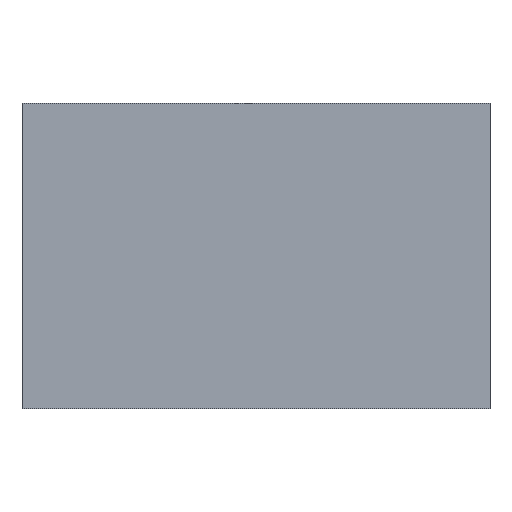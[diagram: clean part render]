
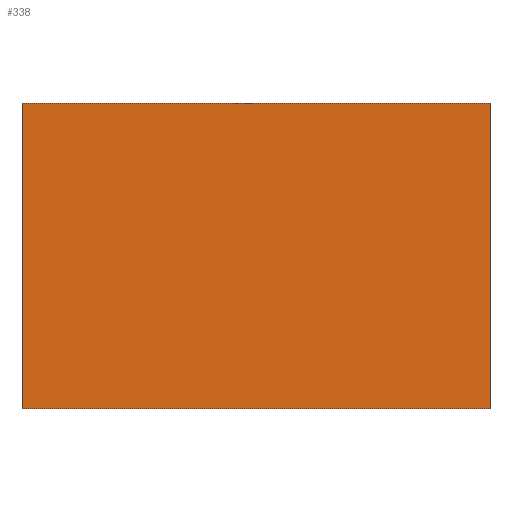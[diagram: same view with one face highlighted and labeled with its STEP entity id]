
A CAD part, top view. The second image highlights one B-rep face of the part: STEP entity #338.
In plain terms, the highlighted planar face has unit normal (0, 0, 1).
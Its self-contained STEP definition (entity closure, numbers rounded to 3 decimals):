
#24 = VERTEX_POINT('',#25);
#25 = CARTESIAN_POINT('',(30.,-3.2,14.8));
#32 = PLANE('',#33);
#33 = AXIS2_PLACEMENT_3D('',#34,#35,#36);
#34 = CARTESIAN_POINT('',(30.,-3.2,11.5));
#35 = DIRECTION('',(1.,0.,0.));
#36 = DIRECTION('',(0.,0.,1.));
#44 = PLANE('',#45);
#45 = AXIS2_PLACEMENT_3D('',#46,#47,#48);
#46 = CARTESIAN_POINT('',(30.,-3.2,11.5));
#47 = DIRECTION('',(0.,1.,0.));
#48 = DIRECTION('',(0.,0.,1.));
#85 = VERTEX_POINT('',#86);
#86 = CARTESIAN_POINT('',(30.,3.2,14.8));
#100 = PLANE('',#101);
#101 = AXIS2_PLACEMENT_3D('',#102,#103,#104);
#102 = CARTESIAN_POINT('',(30.,3.2,11.5));
#103 = DIRECTION('',(0.,1.,0.));
#104 = DIRECTION('',(0.,0.,1.));
#112 = EDGE_CURVE('',#24,#85,#113,.T.);
#113 = SURFACE_CURVE('',#114,(#118,#125),.PCURVE_S1.);
#114 = LINE('',#115,#116);
#115 = CARTESIAN_POINT('',(30.,-3.2,14.8));
#116 = VECTOR('',#117,1.);
#117 = DIRECTION('',(0.,1.,0.));
#118 = PCURVE('',#32,#119);
#119 = DEFINITIONAL_REPRESENTATION('',(#120),#124);
#120 = LINE('',#121,#122);
#121 = CARTESIAN_POINT('',(3.3,0.));
#122 = VECTOR('',#123,1.);
#123 = DIRECTION('',(0.,-1.));
#124 = ( GEOMETRIC_REPRESENTATION_CONTEXT(2) 
PARAMETRIC_REPRESENTATION_CONTEXT() REPRESENTATION_CONTEXT('2D SPACE',''
  ) );
#125 = PCURVE('',#126,#131);
#126 = PLANE('',#127);
#127 = AXIS2_PLACEMENT_3D('',#128,#129,#130);
#128 = CARTESIAN_POINT('',(30.,-3.2,14.8));
#129 = DIRECTION('',(0.,0.,1.));
#130 = DIRECTION('',(1.,0.,0.));
#131 = DEFINITIONAL_REPRESENTATION('',(#132),#136);
#132 = LINE('',#133,#134);
#133 = CARTESIAN_POINT('',(0.,0.));
#134 = VECTOR('',#135,1.);
#135 = DIRECTION('',(0.,1.));
#136 = ( GEOMETRIC_REPRESENTATION_CONTEXT(2) 
PARAMETRIC_REPRESENTATION_CONTEXT() REPRESENTATION_CONTEXT('2D SPACE',''
  ) );
#144 = VERTEX_POINT('',#145);
#145 = CARTESIAN_POINT('',(39.8,-3.2,14.8));
#152 = PLANE('',#153);
#153 = AXIS2_PLACEMENT_3D('',#154,#155,#156);
#154 = CARTESIAN_POINT('',(39.8,-3.2,11.5));
#155 = DIRECTION('',(1.,0.,0.));
#156 = DIRECTION('',(0.,0.,1.));
#195 = VERTEX_POINT('',#196);
#196 = CARTESIAN_POINT('',(39.8,3.2,14.8));
#217 = EDGE_CURVE('',#144,#195,#218,.T.);
#218 = SURFACE_CURVE('',#219,(#223,#230),.PCURVE_S1.);
#219 = LINE('',#220,#221);
#220 = CARTESIAN_POINT('',(39.8,-3.2,14.8));
#221 = VECTOR('',#222,1.);
#222 = DIRECTION('',(0.,1.,0.));
#223 = PCURVE('',#152,#224);
#224 = DEFINITIONAL_REPRESENTATION('',(#225),#229);
#225 = LINE('',#226,#227);
#226 = CARTESIAN_POINT('',(3.3,0.));
#227 = VECTOR('',#228,1.);
#228 = DIRECTION('',(0.,-1.));
#229 = ( GEOMETRIC_REPRESENTATION_CONTEXT(2) 
PARAMETRIC_REPRESENTATION_CONTEXT() REPRESENTATION_CONTEXT('2D SPACE',''
  ) );
#230 = PCURVE('',#126,#231);
#231 = DEFINITIONAL_REPRESENTATION('',(#232),#236);
#232 = LINE('',#233,#234);
#233 = CARTESIAN_POINT('',(9.8,0.));
#234 = VECTOR('',#235,1.);
#235 = DIRECTION('',(0.,1.));
#236 = ( GEOMETRIC_REPRESENTATION_CONTEXT(2) 
PARAMETRIC_REPRESENTATION_CONTEXT() REPRESENTATION_CONTEXT('2D SPACE',''
  ) );
#263 = EDGE_CURVE('',#24,#144,#264,.T.);
#264 = SURFACE_CURVE('',#265,(#269,#276),.PCURVE_S1.);
#265 = LINE('',#266,#267);
#266 = CARTESIAN_POINT('',(30.,-3.2,14.8));
#267 = VECTOR('',#268,1.);
#268 = DIRECTION('',(1.,0.,0.));
#269 = PCURVE('',#44,#270);
#270 = DEFINITIONAL_REPRESENTATION('',(#271),#275);
#271 = LINE('',#272,#273);
#272 = CARTESIAN_POINT('',(3.3,0.));
#273 = VECTOR('',#274,1.);
#274 = DIRECTION('',(0.,1.));
#275 = ( GEOMETRIC_REPRESENTATION_CONTEXT(2) 
PARAMETRIC_REPRESENTATION_CONTEXT() REPRESENTATION_CONTEXT('2D SPACE',''
  ) );
#276 = PCURVE('',#126,#277);
#277 = DEFINITIONAL_REPRESENTATION('',(#278),#282);
#278 = LINE('',#279,#280);
#279 = CARTESIAN_POINT('',(0.,0.));
#280 = VECTOR('',#281,1.);
#281 = DIRECTION('',(1.,0.));
#282 = ( GEOMETRIC_REPRESENTATION_CONTEXT(2) 
PARAMETRIC_REPRESENTATION_CONTEXT() REPRESENTATION_CONTEXT('2D SPACE',''
  ) );
#310 = EDGE_CURVE('',#85,#195,#311,.T.);
#311 = SURFACE_CURVE('',#312,(#316,#323),.PCURVE_S1.);
#312 = LINE('',#313,#314);
#313 = CARTESIAN_POINT('',(30.,3.2,14.8));
#314 = VECTOR('',#315,1.);
#315 = DIRECTION('',(1.,0.,0.));
#316 = PCURVE('',#100,#317);
#317 = DEFINITIONAL_REPRESENTATION('',(#318),#322);
#318 = LINE('',#319,#320);
#319 = CARTESIAN_POINT('',(3.3,0.));
#320 = VECTOR('',#321,1.);
#321 = DIRECTION('',(0.,1.));
#322 = ( GEOMETRIC_REPRESENTATION_CONTEXT(2) 
PARAMETRIC_REPRESENTATION_CONTEXT() REPRESENTATION_CONTEXT('2D SPACE',''
  ) );
#323 = PCURVE('',#126,#324);
#324 = DEFINITIONAL_REPRESENTATION('',(#325),#329);
#325 = LINE('',#326,#327);
#326 = CARTESIAN_POINT('',(0.,6.4));
#327 = VECTOR('',#328,1.);
#328 = DIRECTION('',(1.,0.));
#329 = ( GEOMETRIC_REPRESENTATION_CONTEXT(2) 
PARAMETRIC_REPRESENTATION_CONTEXT() REPRESENTATION_CONTEXT('2D SPACE',''
  ) );
#338 = ADVANCED_FACE('',(#339),#126,.T.);
#339 = FACE_BOUND('',#340,.T.);
#340 = EDGE_LOOP('',(#341,#342,#343,#344));
#341 = ORIENTED_EDGE('',*,*,#112,.F.);
#342 = ORIENTED_EDGE('',*,*,#263,.T.);
#343 = ORIENTED_EDGE('',*,*,#217,.T.);
#344 = ORIENTED_EDGE('',*,*,#310,.F.);
